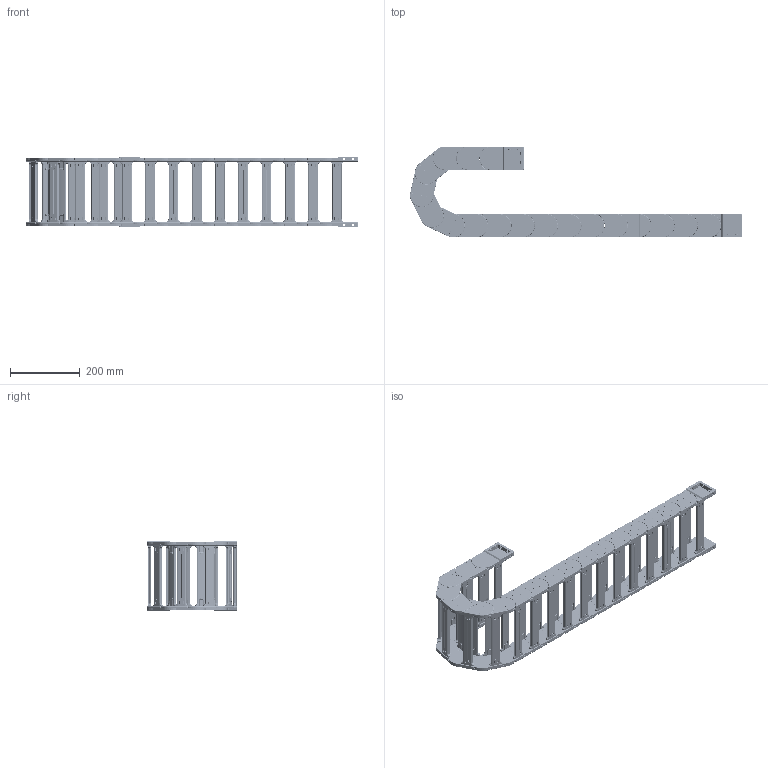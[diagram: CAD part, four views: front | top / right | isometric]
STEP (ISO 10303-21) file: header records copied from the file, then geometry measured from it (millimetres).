
FILE_DESCRIPTION (( 'STEP AP214' ), '1' );
FILE_NAME ('J45Q.1.175S-3D賦凳芞.STEP', '2019-01-10T00:14:27', ( 'Sky123.Org' ), ( 'Sky123.Org' ), 'SwSTEP 2.0', 'SolidWorks 2017', '' );
FILE_SCHEMA (( 'AUTOMOTIVE_DESIGN' ));
Length unit declared in the file: millimetre
Products named in the file (10): 5-N45X75-源諉俋; 45-N源諉芛俋; 5-N45X75-源諉囀; 45-臏簽1; 45-N源諉芛囀; 5-N45X100-1; J45.1結え; 45-崝Ч翋极2; 45-崝Ч翋极1-R250; J45Q.1.175S-3D賦凳芞
Assembly tree (55 placements, depth 3):
  J45Q.1.175S-3D賦凳芞
    5-N45X100-1  x17
      45-崝Ч翋极1-R250
      45-崝Ч翋极2
      J45.1結え
    5-N45X75-源諉囀
      45-N源諉芛囀  x2
      J45.1結え  x2
      45-臏簽1  x12
    5-N45X75-源諉俋
      45-N源諉芛俋  x2
      J45.1結え  x2
      45-臏簽1  x12
Bounding box: 954.91 x 261 x 204 mm (x, y, z)
Volume: 3343994.2 mm3; surface area: 1376663.2 mm2
Topology: 100 solids, 100 shells, 20080 faces, 51658 edges, 31520 vertices
Faces by surface type: plane 7348, cylinder 6440, bspline 3788, torus 1508, sphere 768, cone 228
Entity records: 33152 total; most frequent: CARTESIAN_POINT 10875, ORIENTED_EDGE 4608, DIRECTION 4494, EDGE_CURVE 2304, AXIS2_PLACEMENT_3D 1615, VERTEX_POINT 1438, LINE 1264, VECTOR 1264
